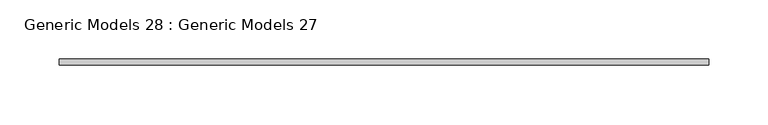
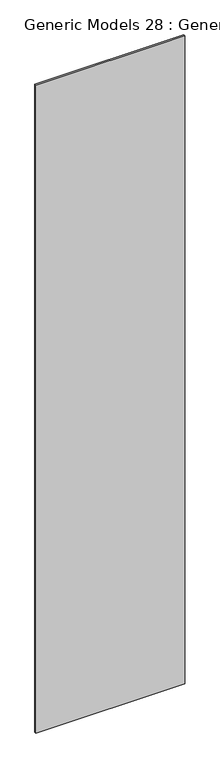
"""IFC4 building model written with IfcOpenShell, lengths in millimetres: proxy geometry, Generic Models 28 : Generic Models 27."""

from ifc_helpers import new_model, si_unit, frame, origin, place, context, project, spatial, polyline, outline, extrude, source, transform, mapped, element, save


def generic_models_28_generic_models_27_a111f2d0(model_context):
    return source(origin(), model_context, "Body", "SweptSolid", [
        extrude(outline(polyline([(98313.5703177, 12709.5259381), (97767.812711, 12709.5259381), (97767.812711, 12714.5259381), (98313.5703177, 12714.5259381), (98313.5703177, 12709.5259381)])), frame((0.0, 0.0, 49.4473399), z_axis=(0.0, 0.0, 1.0), x_axis=(1.0, 0.0, 0.0)), (0.0, 0.0, 1.0), 2507.9728848),
    ])


if __name__ == "__main__":
    model = new_model("IFC4")
    model_context = context("Model", 3, world=origin())
    ifc_project = project(units=[si_unit("LENGTHUNIT", "METRE", prefix="MILLI")], contexts=[model_context])
    site = spatial("IfcSite", under=ifc_project)
    building = spatial("IfcBuilding", under=site)
    placement = place(None, origin())
    generic_models_28_generic_models_27_shape = generic_models_28_generic_models_27_a111f2d0(model_context)
    element("IfcBuildingElementProxy", 1, Name="Generic Models 28 : Generic Models 27", ObjectType="Generic Models 28 : Generic Models 27", at=placement, inside=building, context=model_context, shape_type="MappedRepresentation", body=[
        mapped(generic_models_28_generic_models_27_shape, transform((0.0, 0.0, 0.0), x_axis=(1.0, 0.0, 0.0), y_axis=(0.0, 1.0, 0.0), z_axis=(0.0, 0.0, 1.0))),
    ])
    save(model, "model.ifc")
